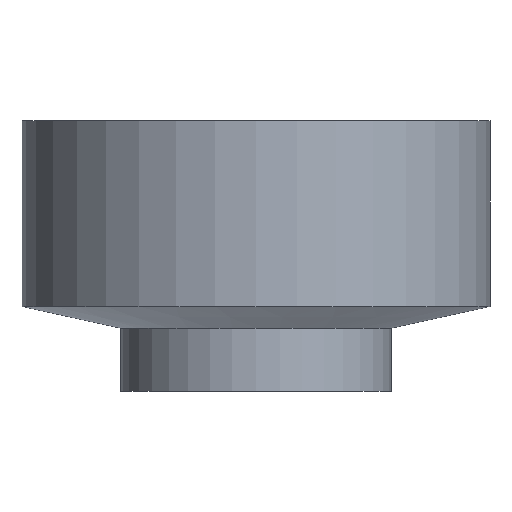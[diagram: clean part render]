
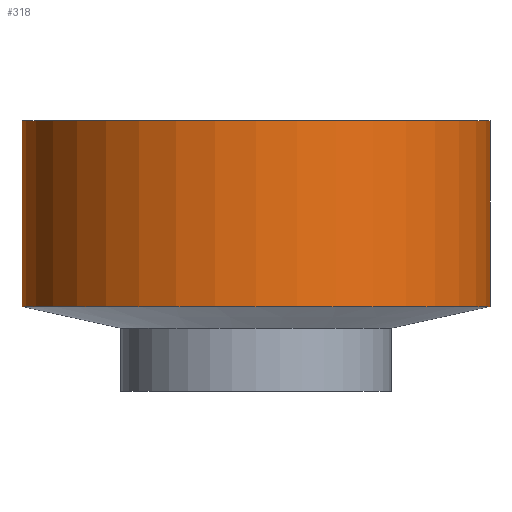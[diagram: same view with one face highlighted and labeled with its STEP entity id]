
A CAD part, front view. The second image highlights one B-rep face of the part: STEP entity #318.
In plain terms, the highlighted cylindrical face has radius 72.5 mm (diameter 145 mm), a partial arc.
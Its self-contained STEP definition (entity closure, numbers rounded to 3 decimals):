
#2 = CARTESIAN_POINT ( 'NONE',  ( 72.5, 0., 26.3 ) ) ;
#43 = LINE ( 'NONE', #327, #284 ) ;
#52 = AXIS2_PLACEMENT_3D ( 'NONE', #313, #476, #111 ) ;
#72 = CARTESIAN_POINT ( 'NONE',  ( -72.5, 0., 83.9 ) ) ;
#76 = ORIENTED_EDGE ( 'NONE', *, *, #131, .T. ) ;
#111 = DIRECTION ( 'NONE',  ( -1., 0., 0. ) ) ;
#115 = VERTEX_POINT ( 'NONE', #364 ) ;
#126 = CIRCLE ( 'NONE', #52, 72.5 ) ;
#128 = DIRECTION ( 'NONE',  ( 0., 0., -1. ) ) ;
#131 = EDGE_CURVE ( 'NONE', #354, #115, #43, .T. ) ;
#164 = ORIENTED_EDGE ( 'NONE', *, *, #377, .F. ) ;
#189 = DIRECTION ( 'NONE',  ( 0., 0., -1. ) ) ;
#201 = ORIENTED_EDGE ( 'NONE', *, *, #363, .F. ) ;
#243 = CYLINDRICAL_SURFACE ( 'NONE', #513, 72.5 ) ;
#258 = CIRCLE ( 'NONE', #498, 72.5 ) ;
#272 = LINE ( 'NONE', #397, #507 ) ;
#284 = VECTOR ( 'NONE', #128, 1000. ) ;
#313 = CARTESIAN_POINT ( 'NONE',  ( 0., 0., 26.3 ) ) ;
#316 = EDGE_LOOP ( 'NONE', ( #164, #489, #76, #201 ) ) ;
#318 = ADVANCED_FACE ( 'NONE', ( #450 ), #243, .T. ) ;
#323 = VERTEX_POINT ( 'NONE', #2 ) ;
#327 = CARTESIAN_POINT ( 'NONE',  ( -72.5, 0., 83.9 ) ) ;
#339 = DIRECTION ( 'NONE',  ( 0., 0., 1. ) ) ;
#354 = VERTEX_POINT ( 'NONE', #72 ) ;
#358 = CARTESIAN_POINT ( 'NONE',  ( 0., 0., 83.9 ) ) ;
#363 = EDGE_CURVE ( 'NONE', #323, #115, #126, .T. ) ;
#364 = CARTESIAN_POINT ( 'NONE',  ( -72.5, 0., 26.3 ) ) ;
#377 = EDGE_CURVE ( 'NONE', #423, #323, #272, .T. ) ;
#389 = DIRECTION ( 'NONE',  ( -1., 0., 0. ) ) ;
#397 = CARTESIAN_POINT ( 'NONE',  ( 72.5, 0., 83.9 ) ) ;
#411 = CARTESIAN_POINT ( 'NONE',  ( 0., 0., 83.9 ) ) ;
#423 = VERTEX_POINT ( 'NONE', #504 ) ;
#441 = EDGE_CURVE ( 'NONE', #354, #423, #258, .T. ) ;
#450 = FACE_OUTER_BOUND ( 'NONE', #316, .T. ) ;
#457 = DIRECTION ( 'NONE',  ( 1., 0., 0. ) ) ;
#476 = DIRECTION ( 'NONE',  ( 0., 0., -1. ) ) ;
#483 = DIRECTION ( 'NONE',  ( 0., 0., -1. ) ) ;
#489 = ORIENTED_EDGE ( 'NONE', *, *, #441, .F. ) ;
#498 = AXIS2_PLACEMENT_3D ( 'NONE', #411, #339, #457 ) ;
#504 = CARTESIAN_POINT ( 'NONE',  ( 72.5, 0., 83.9 ) ) ;
#507 = VECTOR ( 'NONE', #483, 1000. ) ;
#513 = AXIS2_PLACEMENT_3D ( 'NONE', #358, #189, #389 ) ;
